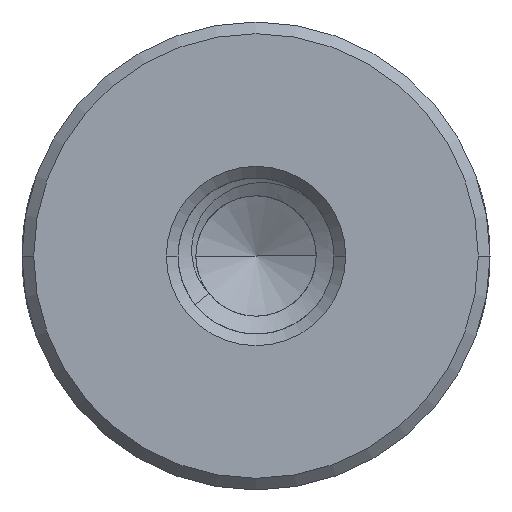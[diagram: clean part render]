
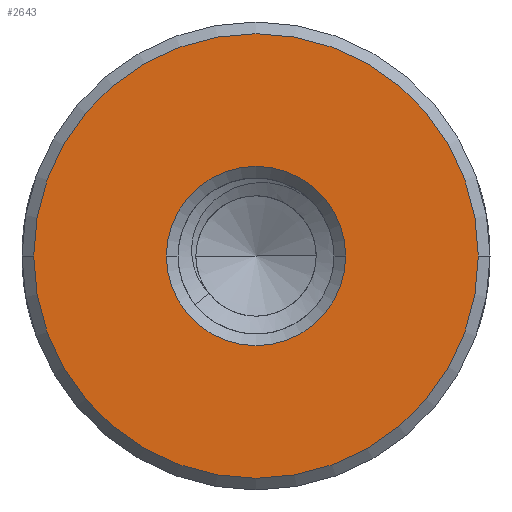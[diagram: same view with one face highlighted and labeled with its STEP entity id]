
A CAD part, front view. The second image highlights one B-rep face of the part: STEP entity #2643.
In plain terms, the highlighted planar face has unit normal (0, -1, 0).
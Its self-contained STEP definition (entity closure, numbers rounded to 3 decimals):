
#1=CARTESIAN_POINT('',(0.,-30.,0.));
#2=DIRECTION('',(0.,-1.,0.));
#3=DIRECTION('',(-1.,0.,0.));
#4=AXIS2_PLACEMENT_3D('',#1,#2,#3);
#6=CARTESIAN_POINT('',(0.,-30.,0.));
#7=DIRECTION('',(0.,-1.,0.));
#8=DIRECTION('',(1.,0.,0.));
#9=AXIS2_PLACEMENT_3D('',#6,#7,#8);
#11=CARTESIAN_POINT('',(0.,-30.,0.));
#12=DIRECTION('',(0.,1.,0.));
#13=DIRECTION('',(-1.,0.,0.));
#14=AXIS2_PLACEMENT_3D('',#11,#12,#13);
#16=CARTESIAN_POINT('',(0.,-30.,0.));
#17=DIRECTION('',(0.,1.,0.));
#18=DIRECTION('',(1.,0.,0.));
#19=AXIS2_PLACEMENT_3D('',#16,#17,#18);
#2470=CARTESIAN_POINT('',(-5.7,-30.,0.));
#2471=CARTESIAN_POINT('',(5.7,-30.,0.));
#2472=VERTEX_POINT('',#2470);
#2473=VERTEX_POINT('',#2471);
#2618=CARTESIAN_POINT('',(-2.3,-30.,0.));
#2619=CARTESIAN_POINT('',(2.3,-30.,0.));
#2620=VERTEX_POINT('',#2618);
#2621=VERTEX_POINT('',#2619);
#2626=CARTESIAN_POINT('',(0.,-30.,0.));
#2627=DIRECTION('',(0.,1.,0.));
#2628=DIRECTION('',(1.,0.,0.));
#2629=AXIS2_PLACEMENT_3D('',#2626,#2627,#2628);
#2630=PLANE('',#2629);
#2632=ORIENTED_EDGE('',*,*,#2631,.F.);
#2634=ORIENTED_EDGE('',*,*,#2633,.F.);
#2635=EDGE_LOOP('',(#2632,#2634));
#2636=FACE_OUTER_BOUND('',#2635,.F.);
#2638=ORIENTED_EDGE('',*,*,#2637,.F.);
#2640=ORIENTED_EDGE('',*,*,#2639,.F.);
#2641=EDGE_LOOP('',(#2638,#2640));
#2642=FACE_BOUND('',#2641,.F.);
#2643=ADVANCED_FACE('',(#2636,#2642),#2630,.F.);
#5=CIRCLE('',#4,5.7);
#10=CIRCLE('',#9,5.7);
#15=CIRCLE('',#14,2.3);
#20=CIRCLE('',#19,2.3);
#2631=EDGE_CURVE('',#2472,#2473,#5,.T.);
#2633=EDGE_CURVE('',#2473,#2472,#10,.T.);
#2637=EDGE_CURVE('',#2620,#2621,#15,.T.);
#2639=EDGE_CURVE('',#2621,#2620,#20,.T.);
